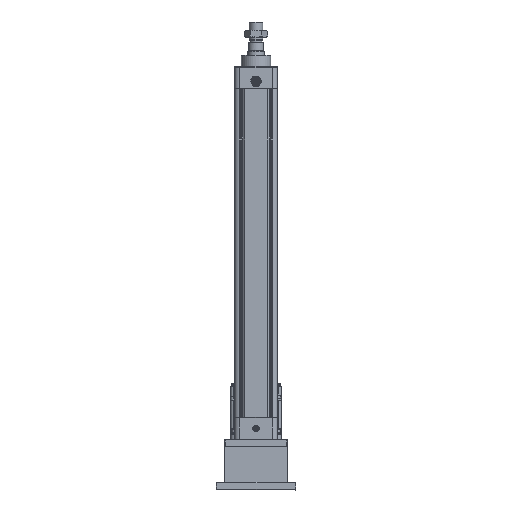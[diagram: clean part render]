
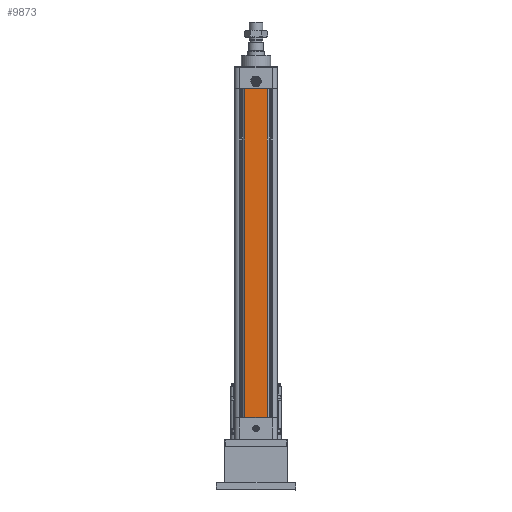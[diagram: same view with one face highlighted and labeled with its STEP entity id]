
A CAD part, top view. The second image highlights one B-rep face of the part: STEP entity #9873.
In plain terms, the highlighted planar face has unit normal (0, 0, 1).
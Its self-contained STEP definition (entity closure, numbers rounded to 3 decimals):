
#4809=DIRECTION('',(1.,0.,0.));
#4810=VECTOR('',#4809,26.613);
#4811=CARTESIAN_POINT('',(-13.307,195.7,25.5));
#4812=LINE('',#4811,#4810);
#4813=DIRECTION('',(0.,1.,0.));
#4814=VECTOR('',#4813,391.4);
#4815=CARTESIAN_POINT('',(13.307,-195.7,25.5));
#4816=LINE('',#4815,#4814);
#4817=DIRECTION('',(-1.,0.,0.));
#4818=VECTOR('',#4817,26.613);
#4819=CARTESIAN_POINT('',(13.307,-195.7,25.5));
#4820=LINE('',#4819,#4818);
#4821=DIRECTION('',(0.,-1.,0.));
#4822=VECTOR('',#4821,391.4);
#4823=CARTESIAN_POINT('',(-13.307,195.7,25.5));
#4824=LINE('',#4823,#4822);
#7410=CARTESIAN_POINT('',(13.307,195.7,25.5));
#7411=VERTEX_POINT('',#7410);
#7416=CARTESIAN_POINT('',(-13.307,195.7,25.5));
#7417=VERTEX_POINT('',#7416);
#7736=CARTESIAN_POINT('',(-13.307,-195.7,25.5));
#7737=VERTEX_POINT('',#7736);
#7742=CARTESIAN_POINT('',(13.307,-195.7,25.5));
#7743=VERTEX_POINT('',#7742);
#9859=CARTESIAN_POINT('',(-25.5,-196.,25.5));
#9860=DIRECTION('',(0.,0.,1.));
#9861=DIRECTION('',(1.,0.,0.));
#9862=AXIS2_PLACEMENT_3D('',#9859,#9860,#9861);
#9863=PLANE('',#9862);
#9865=ORIENTED_EDGE('',*,*,#9864,.T.);
#9867=ORIENTED_EDGE('',*,*,#9866,.F.);
#9869=ORIENTED_EDGE('',*,*,#9868,.T.);
#9870=ORIENTED_EDGE('',*,*,#9834,.F.);
#9871=EDGE_LOOP('',(#9865,#9867,#9869,#9870));
#9872=FACE_OUTER_BOUND('',#9871,.F.);
#9873=ADVANCED_FACE('',(#9872),#9863,.T.);
#9834=EDGE_CURVE('',#7417,#7737,#4824,.T.);
#9864=EDGE_CURVE('',#7417,#7411,#4812,.T.);
#9866=EDGE_CURVE('',#7743,#7411,#4816,.T.);
#9868=EDGE_CURVE('',#7743,#7737,#4820,.T.);
